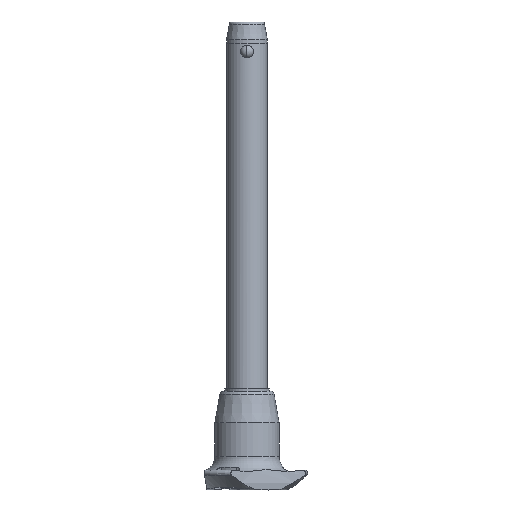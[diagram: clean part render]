
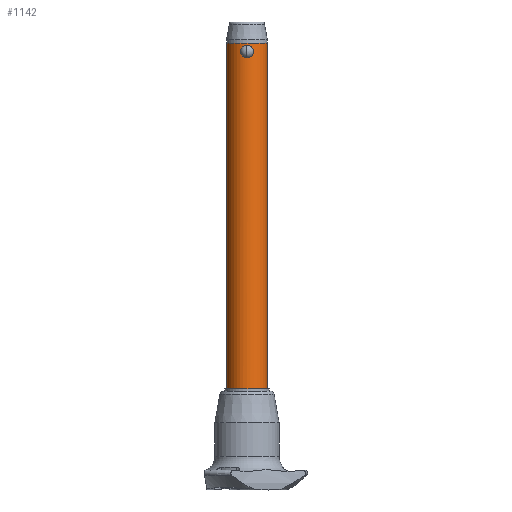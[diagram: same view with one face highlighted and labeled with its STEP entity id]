
A CAD part, front view. The second image highlights one B-rep face of the part: STEP entity #1142.
In plain terms, the highlighted cylindrical face has radius 8 mm (diameter 16 mm), a partial arc.
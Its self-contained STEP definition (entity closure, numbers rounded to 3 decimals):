
#13 = CARTESIAN_POINT ( 'NONE',  ( -0.326, -7.995, 4.761 ) ) ;
#31 = CARTESIAN_POINT ( 'NONE',  ( -2.546, -7.584, 2.553 ) ) ;
#47 = CARTESIAN_POINT ( 'NONE',  ( -1.254, -7.902, 0.297 ) ) ;
#107 = DIRECTION ( 'NONE',  ( 1., 0., 0. ) ) ;
#122 = AXIS2_PLACEMENT_3D ( 'NONE', #2811, #1877, #2137 ) ;
#125 = EDGE_CURVE ( 'NONE', #2345, #1359, #1117, .T. ) ;
#149 = CARTESIAN_POINT ( 'NONE',  ( 1.66, -7.827, 4.215 ) ) ;
#163 = CARTESIAN_POINT ( 'NONE',  ( 2.546, -7.584, 2.22 ) ) ;
#216 = VECTOR ( 'NONE', #2690, 1000. ) ;
#220 = CARTESIAN_POINT ( 'NONE',  ( -2.529, -7.59, 2.716 ) ) ;
#278 = CARTESIAN_POINT ( 'NONE',  ( -2.016, -7.746, 0.883 ) ) ;
#284 = ORIENTED_EDGE ( 'NONE', *, *, #2070, .F. ) ;
#359 = CARTESIAN_POINT ( 'NONE',  ( 0., -8., 0. ) ) ;
#371 = CARTESIAN_POINT ( 'NONE',  ( 0.652, -7.979, 0.058 ) ) ;
#382 = CARTESIAN_POINT ( 'NONE',  ( 2.211, -7.69, 3.626 ) ) ;
#431 = CARTESIAN_POINT ( 'NONE',  ( -0.164, -8., 4.775 ) ) ;
#452 = LINE ( 'NONE', #875, #216 ) ;
#476 = CARTESIAN_POINT ( 'NONE',  ( -1.252, -7.903, 4.479 ) ) ;
#496 = CARTESIAN_POINT ( 'NONE',  ( -2.408, -7.629, 3.189 ) ) ;
#509 = CARTESIAN_POINT ( 'NONE',  ( -8., 0., 5.6 ) ) ;
#523 = VERTEX_POINT ( 'NONE', #1384 ) ;
#588 = CARTESIAN_POINT ( 'NONE',  ( 1.657, -7.827, 0.558 ) ) ;
#630 = ORIENTED_EDGE ( 'NONE', *, *, #684, .F. ) ;
#632 = CARTESIAN_POINT ( 'NONE',  ( 2.408, -7.629, 1.586 ) ) ;
#648 = CARTESIAN_POINT ( 'NONE',  ( 1.253, -7.903, 4.478 ) ) ;
#653 = CARTESIAN_POINT ( 'NONE',  ( -2.411, -7.628, 1.592 ) ) ;
#666 = CARTESIAN_POINT ( 'NONE',  ( 0., -8., 4.775 ) ) ;
#684 = EDGE_CURVE ( 'NONE', #1359, #2345, #2657, .T. ) ;
#707 = CARTESIAN_POINT ( 'NONE',  ( 8., 0., 5.6 ) ) ;
#714 = CARTESIAN_POINT ( 'NONE',  ( -0.803, -7.961, 4.661 ) ) ;
#802 = ORIENTED_EDGE ( 'NONE', *, *, #125, .F. ) ;
#807 = CARTESIAN_POINT ( 'NONE',  ( 1.252, -7.903, 0.296 ) ) ;
#850 = CARTESIAN_POINT ( 'NONE',  ( 1.894, -7.773, 0.773 ) ) ;
#875 = CARTESIAN_POINT ( 'NONE',  ( 8., 0., -130. ) ) ;
#887 = EDGE_LOOP ( 'NONE', ( #1045, #284, #1982, #2524 ) ) ;
#903 = CARTESIAN_POINT ( 'NONE',  ( -1.53, -7.854, 0.464 ) ) ;
#904 = VERTEX_POINT ( 'NONE', #1393 ) ;
#919 = CARTESIAN_POINT ( 'NONE',  ( -2.211, -7.69, 1.148 ) ) ;
#1038 = CARTESIAN_POINT ( 'NONE',  ( 0.645, -7.976, 4.704 ) ) ;
#1045 = ORIENTED_EDGE ( 'NONE', *, *, #1857, .F. ) ;
#1070 = CARTESIAN_POINT ( 'NONE',  ( 1.529, -7.854, 0.463 ) ) ;
#1117 = B_SPLINE_CURVE_WITH_KNOTS ( 'NONE', 3,
 ( #666, #431, #13, #1604, #714, #1592, #476, #2281, #2703, #2045, #1997, #1140, #1123, #496, #1358, #220, #31, #1387, #2522, #2027, #653, #919, #278, #1371, #903, #47, #1547, #1798, #2474, #2687 ),
 .UNSPECIFIED., .F., .F.,
 ( 4, 2, 2, 2, 2, 2, 2, 2, 2, 2, 2, 2, 2, 2, 4 ),
 ( 0., 0., 0.001, 0.001, 0.002, 0.002, 0.003, 0.003, 0.004, 0.004, 0.005, 0.006, 0.006, 0.007, 0.008 ),
 .UNSPECIFIED. ) ;
#1123 = CARTESIAN_POINT ( 'NONE',  ( -2.276, -7.67, 3.482 ) ) ;
#1140 = CARTESIAN_POINT ( 'NONE',  ( -2.193, -7.694, 3.623 ) ) ;
#1142 = ADVANCED_FACE ( 'NONE', ( #2893, #2879 ), #2625, .T. ) ;
#1174 = CARTESIAN_POINT ( 'NONE',  ( 0., -8., 4.775 ) ) ;
#1251 = CARTESIAN_POINT ( 'NONE',  ( 2.016, -7.746, 3.891 ) ) ;
#1262 = CARTESIAN_POINT ( 'NONE',  ( 2.529, -7.59, 2.71 ) ) ;
#1291 = CARTESIAN_POINT ( 'NONE',  ( 1.529, -7.854, 4.312 ) ) ;
#1305 = CARTESIAN_POINT ( 'NONE',  ( 2.547, -7.584, 2.549 ) ) ;
#1358 = CARTESIAN_POINT ( 'NONE',  ( -2.459, -7.613, 3.036 ) ) ;
#1359 = VERTEX_POINT ( 'NONE', #2279 ) ;
#1361 = VERTEX_POINT ( 'NONE', #509 ) ;
#1371 = CARTESIAN_POINT ( 'NONE',  ( -1.659, -7.827, 0.559 ) ) ;
#1384 = CARTESIAN_POINT ( 'NONE',  ( 8., 0., -130. ) ) ;
#1387 = CARTESIAN_POINT ( 'NONE',  ( -2.547, -7.584, 2.229 ) ) ;
#1393 = CARTESIAN_POINT ( 'NONE',  ( -8., 0., -130. ) ) ;
#1526 = CARTESIAN_POINT ( 'NONE',  ( 0., -8., 4.775 ) ) ;
#1527 = CARTESIAN_POINT ( 'NONE',  ( -8., 0., -130. ) ) ;
#1547 = CARTESIAN_POINT ( 'NONE',  ( -1.106, -7.925, 0.226 ) ) ;
#1592 = CARTESIAN_POINT ( 'NONE',  ( -1.107, -7.924, 4.548 ) ) ;
#1604 = CARTESIAN_POINT ( 'NONE',  ( -0.645, -7.976, 4.704 ) ) ;
#1700 = CARTESIAN_POINT ( 'NONE',  ( 0.164, -8., 4.775 ) ) ;
#1731 = CARTESIAN_POINT ( 'NONE',  ( 0.326, -7.995, 4.761 ) ) ;
#1743 = CARTESIAN_POINT ( 'NONE',  ( 2.528, -7.59, 2.058 ) ) ;
#1762 = CARTESIAN_POINT ( 'NONE',  ( 2.004, -7.746, 0.894 ) ) ;
#1798 = CARTESIAN_POINT ( 'NONE',  ( -0.652, -7.979, 0.058 ) ) ;
#1803 = VECTOR ( 'NONE', #2420, 1000. ) ;
#1857 = EDGE_CURVE ( 'NONE', #904, #1361, #2666, .T. ) ;
#1877 = DIRECTION ( 'NONE',  ( 0., 0., 1. ) ) ;
#1973 = CARTESIAN_POINT ( 'NONE',  ( 2.275, -7.67, 1.291 ) ) ;
#1977 = DIRECTION ( 'NONE',  ( 0., 0., 1. ) ) ;
#1982 = ORIENTED_EDGE ( 'NONE', *, *, #2605, .T. ) ;
#1997 = CARTESIAN_POINT ( 'NONE',  ( -2.003, -7.746, 3.882 ) ) ;
#2027 = CARTESIAN_POINT ( 'NONE',  ( -2.461, -7.612, 1.746 ) ) ;
#2045 = CARTESIAN_POINT ( 'NONE',  ( -1.896, -7.773, 4.001 ) ) ;
#2070 = EDGE_CURVE ( 'NONE', #523, #904, #2471, .T. ) ;
#2137 = DIRECTION ( 'NONE',  ( 1., 0., 0. ) ) ;
#2170 = CARTESIAN_POINT ( 'NONE',  ( 2.461, -7.612, 3.027 ) ) ;
#2181 = CARTESIAN_POINT ( 'NONE',  ( 0.324, -8., 0. ) ) ;
#2234 = AXIS2_PLACEMENT_3D ( 'NONE', #2545, #2337, #107 ) ;
#2279 = CARTESIAN_POINT ( 'NONE',  ( 0., -8., 0. ) ) ;
#2281 = CARTESIAN_POINT ( 'NONE',  ( -1.527, -7.854, 4.313 ) ) ;
#2337 = DIRECTION ( 'NONE',  ( 0., 0., -1. ) ) ;
#2345 = VERTEX_POINT ( 'NONE', #1174 ) ;
#2360 = EDGE_CURVE ( 'NONE', #1361, #2799, #2771, .T. ) ;
#2373 = EDGE_LOOP ( 'NONE', ( #802, #630 ) ) ;
#2396 = CARTESIAN_POINT ( 'NONE',  ( 2.46, -7.613, 1.742 ) ) ;
#2418 = CARTESIAN_POINT ( 'NONE',  ( 0.804, -7.961, 4.661 ) ) ;
#2420 = DIRECTION ( 'NONE',  ( 0., 0., 1. ) ) ;
#2452 = CARTESIAN_POINT ( 'NONE',  ( 0., 0., -130. ) ) ;
#2471 = CIRCLE ( 'NONE', #2234, 8. ) ;
#2474 = CARTESIAN_POINT ( 'NONE',  ( -0.324, -8., 0. ) ) ;
#2522 = CARTESIAN_POINT ( 'NONE',  ( -2.529, -7.59, 2.064 ) ) ;
#2524 = ORIENTED_EDGE ( 'NONE', *, *, #2360, .F. ) ;
#2545 = CARTESIAN_POINT ( 'NONE',  ( 0., 0., -130. ) ) ;
#2605 = EDGE_CURVE ( 'NONE', #523, #2799, #452, .T. ) ;
#2618 = CARTESIAN_POINT ( 'NONE',  ( 1.105, -7.925, 0.226 ) ) ;
#2625 = CYLINDRICAL_SURFACE ( 'NONE', #2864, 8. ) ;
#2657 = B_SPLINE_CURVE_WITH_KNOTS ( 'NONE', 3,
 ( #359, #2181, #371, #2618, #807, #1070, #588, #850, #1762, #2682, #1973, #632, #2396, #1743, #163, #1305, #1262, #2170, #2889, #382, #1251, #149, #1291, #648, #2664, #2418, #1038, #1731, #1700, #1526 ),
 .UNSPECIFIED., .F., .F.,
 ( 4, 2, 2, 2, 2, 2, 2, 2, 2, 2, 2, 2, 2, 2, 4 ),
 ( 0.008, 0.009, 0.009, 0.01, 0.01, 0.011, 0.011, 0.012, 0.012, 0.013, 0.014, 0.014, 0.015, 0.015, 0.016 ),
 .UNSPECIFIED. ) ;
#2664 = CARTESIAN_POINT ( 'NONE',  ( 1.108, -7.924, 4.548 ) ) ;
#2666 = LINE ( 'NONE', #1527, #1803 ) ;
#2682 = CARTESIAN_POINT ( 'NONE',  ( 2.194, -7.694, 1.153 ) ) ;
#2687 = CARTESIAN_POINT ( 'NONE',  ( 0., -8., 0. ) ) ;
#2690 = DIRECTION ( 'NONE',  ( 0., 0., 1. ) ) ;
#2703 = CARTESIAN_POINT ( 'NONE',  ( -1.658, -7.827, 4.216 ) ) ;
#2771 = CIRCLE ( 'NONE', #122, 8. ) ;
#2799 = VERTEX_POINT ( 'NONE', #707 ) ;
#2811 = CARTESIAN_POINT ( 'NONE',  ( 0., 0., 5.6 ) ) ;
#2864 = AXIS2_PLACEMENT_3D ( 'NONE', #2452, #1977, #2865 ) ;
#2865 = DIRECTION ( 'NONE',  ( 1., 0., 0. ) ) ;
#2879 = FACE_BOUND ( 'NONE', #2373, .T. ) ;
#2889 = CARTESIAN_POINT ( 'NONE',  ( 2.41, -7.629, 3.184 ) ) ;
#2893 = FACE_OUTER_BOUND ( 'NONE', #887, .T. ) ;
